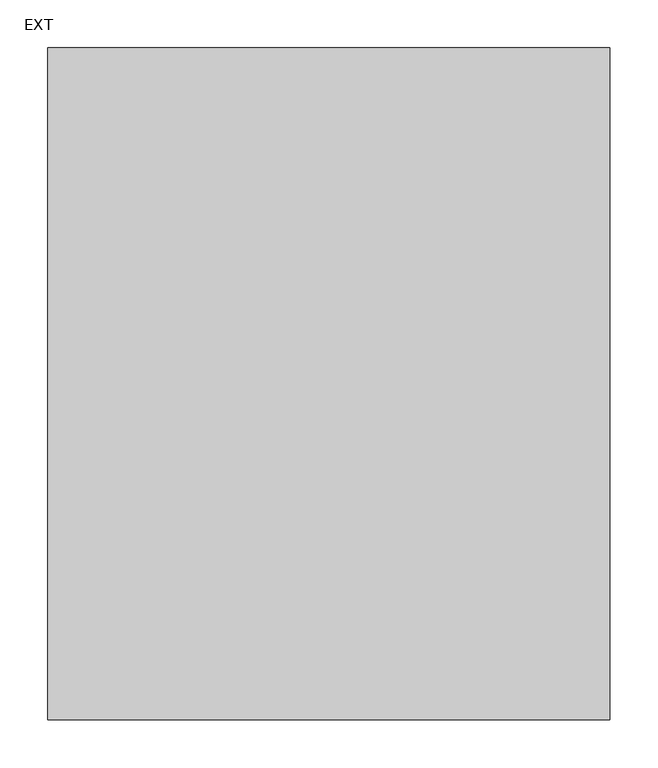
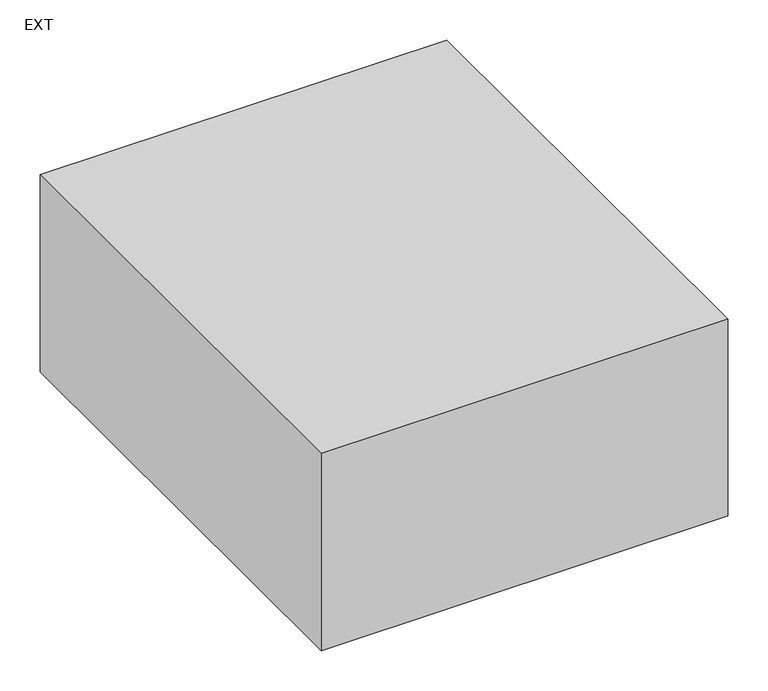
"""IFC4 building model written with IfcOpenShell, lengths in millimetres: duct fitting geometry, M_Toma de derivación rectangular : EXT."""

import ifcopenshell
import ifcopenshell.guid

model = None  # the IFC model being written
_history = None  # IfcOwnerHistory: only IFC2X3 demands one
_inside = {}  # id of a spatial element -> (the spatial element, [elements in it])
_under = {}  # id of a project, library or spatial element -> (it, [spatial elements below it])
_declared = {}  # id of a project -> (the project, [libraries it declares])
_typed = {}  # id of a type object -> (the type object, [elements of that type])
_made_of = {}  # id of a material, layer set ... -> (it, [elements and type objects made of it])


def new_model(schema):
    """Start an empty IFC model of exactly this schema.

    Asked for "IFC4X3", IfcOpenShell would pick the latest addendum, in which some entities
    have other attributes; the version numbers below select the first issue.
    IFC2X3 requires an IfcOwnerHistory on every rooted entity: one is made here for all.
    """
    global model, _history
    if schema == "IFC4X3":
        model = ifcopenshell.file(schema_version=(4, 3, 0, 0))
    else:
        model = ifcopenshell.file(schema=schema)
    _inside.clear()
    _under.clear()
    _declared.clear()
    _typed.clear()
    _made_of.clear()
    _history = None
    if model.schema == "IFC2X3":
        org = make("IfcOrganization", Name="unknown")
        user = make(
            "IfcPersonAndOrganization",
            ThePerson=make("IfcPerson", FamilyName="unknown"),
            TheOrganization=org,
        )
        app = make(
            "IfcApplication",
            ApplicationDeveloper=org,
            Version="unknown",
            ApplicationFullName="unknown",
            ApplicationIdentifier="unknown",
        )
        _history = make(
            "IfcOwnerHistory",
            OwningUser=user,
            OwningApplication=app,
            ChangeAction="ADDED",
            CreationDate=0,
        )
    return model


def make(cls, **values):
    """One entity of the class cls with the attributes given. An attribute that is None is left unset."""
    return model.create_entity(
        cls, **{name: value for name, value in values.items() if value is not None}
    )


def rooted(cls, **values):
    """An entity with a GlobalId (a new one), such as an element, a storey or a relation."""
    return make(cls, GlobalId=ifcopenshell.guid.new(), OwnerHistory=_history, **values)


def si_unit(unit_type, name, prefix=None):
    """IfcSIUnit, for example si_unit("LENGTHUNIT", "METRE", prefix="MILLI")."""
    return make("IfcSIUnit", UnitType=unit_type, Prefix=prefix, Name=name)


def assignment(units):
    """IfcUnitAssignment: the units of a project."""
    return None if units is None else make("IfcUnitAssignment", Units=units)


def point(xyz):
    """IfcCartesianPoint."""
    return None if xyz is None else make("IfcCartesianPoint", Coordinates=xyz)


def direction(xyz):
    """IfcDirection."""
    return None if xyz is None else make("IfcDirection", DirectionRatios=xyz)


def frame(location, z_axis=None, x_axis=None):
    """IfcAxis2Placement3D, a coordinate frame: its origin and axes. An axis left out is left unset."""
    return make(
        "IfcAxis2Placement3D",
        Location=point(location),
        Axis=direction(z_axis),
        RefDirection=direction(x_axis),
    )


def origin():
    """The frame at (0, 0, 0) with its axes left unset."""
    return frame((0.0, 0.0, 0.0))


def place(relative_to, where):
    """IfcLocalPlacement: puts the frame where relative to a parent placement (None: the world)."""
    return make(
        "IfcLocalPlacement", PlacementRelTo=relative_to, RelativePlacement=where
    )


def context(
    kind, dimensions, precision=None, world=None, true_north=None, identifier=None
):
    """IfcGeometricRepresentationContext, for example the 3D "Model" context."""
    return make(
        "IfcGeometricRepresentationContext",
        ContextIdentifier=identifier,
        ContextType=kind,
        CoordinateSpaceDimension=dimensions,
        Precision=precision,
        WorldCoordinateSystem=world,
        TrueNorth=true_north,
    )


def project(units=None, contexts=None):
    """IfcProject with its units and contexts."""
    return rooted(
        "IfcProject",
        Name="project",
        RepresentationContexts=contexts,
        UnitsInContext=assignment(units),
    )


def spatial(cls, under=None, at=None, **own):
    """A site, building, storey or space (cls), placed at a placement, below another one or the project."""
    s = rooted(cls, ObjectPlacement=at, **own)
    if under is not None:
        _under.setdefault(under.id(), (under, []))[1].append(s)
    return s


def polyline(points):
    """IfcPolyline through the points."""
    return make("IfcPolyline", Points=[point(p) for p in points])


def outline(outer, holes=None, kind="AREA"):
    """IfcArbitraryClosedProfileDef: a profile drawn as a closed curve; with holes, ...WithVoids."""
    if holes is None:
        return make("IfcArbitraryClosedProfileDef", ProfileType=kind, OuterCurve=outer)
    return make(
        "IfcArbitraryProfileDefWithVoids",
        ProfileType=kind,
        OuterCurve=outer,
        InnerCurves=holes,
    )


def extrude(swept, where, along, depth):
    """IfcExtrudedAreaSolid: the profile swept, set in the frame where, extruded along a direction by depth."""
    return make(
        "IfcExtrudedAreaSolid",
        SweptArea=swept,
        Position=where,
        ExtrudedDirection=direction(along),
        Depth=depth,
    )


def shape(context_of_items, identifier, shape_type, items):
    """IfcShapeRepresentation: the items that make up one representation, for example the "Body"."""
    return make(
        "IfcShapeRepresentation",
        ContextOfItems=context_of_items,
        RepresentationIdentifier=identifier,
        RepresentationType=shape_type,
        Items=items,
    )


def source(mapping_origin, context_of_items, identifier, shape_type, items):
    """IfcRepresentationMap: a shape defined once, which mapped items show again and again."""
    return make(
        "IfcRepresentationMap",
        MappingOrigin=mapping_origin,
        MappedRepresentation=shape(context_of_items, identifier, shape_type, items),
    )


def transform(
    local_origin,
    x_axis=None,
    y_axis=None,
    z_axis=None,
    scale=None,
    scale2=None,
    scale3=None,
    uniform=True,
):
    """IfcCartesianTransformationOperator3D, or its non-uniform kind. x_axis, y_axis, z_axis: its Axis1, 2, 3."""
    if uniform:
        return make(
            "IfcCartesianTransformationOperator3D",
            Axis1=direction(x_axis),
            Axis2=direction(y_axis),
            LocalOrigin=point(local_origin),
            Scale=scale,
            Axis3=direction(z_axis),
        )
    return make(
        "IfcCartesianTransformationOperator3DnonUniform",
        Axis1=direction(x_axis),
        Axis2=direction(y_axis),
        LocalOrigin=point(local_origin),
        Scale=scale,
        Axis3=direction(z_axis),
        Scale2=scale2,
        Scale3=scale3,
    )


def mapped(mapping_source, mapping_target):
    """IfcMappedItem: shows the shape of a source again, moved by a transform."""
    return make(
        "IfcMappedItem", MappingSource=mapping_source, MappingTarget=mapping_target
    )


def made_of(thing, what):
    """Note that an element or type object is made of a material, layer set ...; save() writes the relation."""
    if what is not None:
        _made_of.setdefault(what.id(), (what, []))[1].append(thing)
    return thing


def element(
    cls,
    number,
    at=None,
    inside=None,
    cuts=None,
    type_object=None,
    material=None,
    context=None,
    identifier="Body",
    shape_type=None,
    held_by="IfcProductDefinitionShape",
    body=None,
    shapes=None,
    **own,
):
    """One element of the class cls, such as IfcWall. Its Tag is "e" and its number.

    at: its placement. inside: the storey or other place that contains it. cuts: it is an
    opening in that element (IfcRelVoidsElement). A single representation is given by context,
    identifier, shape_type and body (its items); several are given by shapes. held_by: the class
    of the entity that holds the representations. save() writes the other relations.
    """
    e = rooted(cls, Tag="e%d" % number, ObjectPlacement=at, **own)
    if body is not None:
        shapes = [shape(context, identifier, shape_type, body)]
    if shapes is not None:
        e.Representation = make(held_by, Representations=shapes)
    if inside is not None:
        _inside.setdefault(inside.id(), (inside, []))[1].append(e)
    if cuts is not None:
        rooted(
            "IfcRelVoidsElement", RelatingBuildingElement=cuts, RelatedOpeningElement=e
        )
    if type_object is not None:
        _typed.setdefault(type_object.id(), (type_object, []))[1].append(e)
    return made_of(e, material)


def aggregate(whole, parts):
    """IfcRelAggregates: a whole, such as a stair, and the parts it consists of."""
    return rooted("IfcRelAggregates", RelatingObject=whole, RelatedObjects=parts)


def save(model, path):
    """Write the relations noted so far, then the file.

    IfcRelAggregates (storeys below a building ...), IfcRelContainedInSpatialStructure (elements
    in a storey), IfcRelDefinesByType, IfcRelAssociatesMaterial and IfcRelDeclares: one each for
    every whole, place, type object, material and project.
    """
    for whole, parts in _under.values():
        aggregate(whole, parts)
    for where, things in _inside.values():
        rooted(
            "IfcRelContainedInSpatialStructure",
            RelatedElements=things,
            RelatingStructure=where,
        )
    for kind, things in _typed.values():
        rooted("IfcRelDefinesByType", RelatedObjects=things, RelatingType=kind)
    for what, things in _made_of.values():
        rooted("IfcRelAssociatesMaterial", RelatedObjects=things, RelatingMaterial=what)
    for by, libraries in _declared.values():
        rooted("IfcRelDeclares", RelatingContext=by, RelatedDefinitions=libraries)
    model.write(path)


def ext_715f5c17(model_context):
    return source(origin(), model_context, "Body", "SweptSolid", [
        extrude(outline(polyline([(-208.1685942, -350.0), (-208.1685942, 350.0), (377.0725942, 350.0), (377.0725942, -350.0), (-208.1685942, -350.0)])), frame((0.0, 0.0, -150.0), z_axis=(0.0, 0.0, 1.0), x_axis=(1.0, 0.0, 0.0)), (0.0, 0.0, 1.0), 300.0),
    ])


if __name__ == "__main__":
    model = new_model("IFC4")
    model_context = context("Model", 3, world=origin())
    ifc_project = project(units=[si_unit("LENGTHUNIT", "METRE", prefix="MILLI")], contexts=[model_context])
    site = spatial("IfcSite", under=ifc_project)
    building = spatial("IfcBuilding", under=site)
    placement = place(None, origin())
    ext_shape = ext_715f5c17(model_context)
    element("IfcDuctFitting", 1, ObjectType="M_Toma de derivación rectangular : EXT", at=placement, inside=building, context=model_context, shape_type="MappedRepresentation", body=[
        mapped(ext_shape, transform((0.0, 0.0, 0.0), x_axis=(1.0, 0.0, 0.0), y_axis=(0.0, 1.0, 0.0), z_axis=(0.0, 0.0, 1.0))),
    ])
    save(model, "model.ifc")
